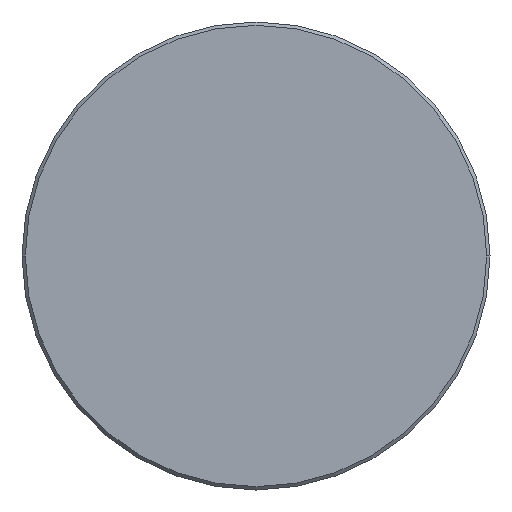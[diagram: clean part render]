
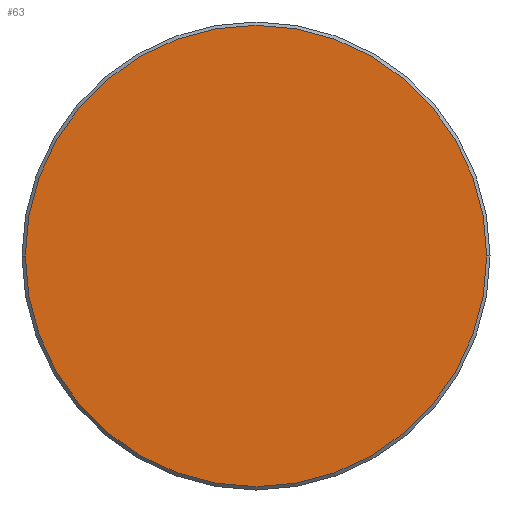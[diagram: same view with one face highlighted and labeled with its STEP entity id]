
A CAD part, left-side view. The second image highlights one B-rep face of the part: STEP entity #63.
In plain terms, the highlighted planar face has unit normal (-1, 0, 0).
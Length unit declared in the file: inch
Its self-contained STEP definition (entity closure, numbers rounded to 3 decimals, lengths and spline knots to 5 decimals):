
#13 = VERTEX_POINT ( 'NONE', #131 ) ;
#33 = DIRECTION ( 'NONE',  ( 0., -1., 0. ) ) ;
#36 = AXIS2_PLACEMENT_3D ( 'NONE', #264, #113, #33 ) ;
#51 = DIRECTION ( 'NONE',  ( -1., 0., 0. ) ) ;
#63 = ADVANCED_FACE ( 'NONE', ( #220 ), #219, .T. ) ;
#83 = AXIS2_PLACEMENT_3D ( 'NONE', #339, #51, #249 ) ;
#87 = AXIS2_PLACEMENT_3D ( 'NONE', #271, #294, #267 ) ;
#89 = VERTEX_POINT ( 'NONE', #106 ) ;
#106 = CARTESIAN_POINT ( 'NONE',  ( 0., -0.27725, 0. ) ) ;
#111 = EDGE_LOOP ( 'NONE', ( #213, #118 ) ) ;
#112 = CIRCLE ( 'NONE', #36, 0.27725 ) ;
#113 = DIRECTION ( 'NONE',  ( -1., 0., 0. ) ) ;
#118 = ORIENTED_EDGE ( 'NONE', *, *, #349, .T. ) ;
#131 = CARTESIAN_POINT ( 'NONE',  ( 0., 0.27725, 0. ) ) ;
#160 = CIRCLE ( 'NONE', #87, 0.27725 ) ;
#213 = ORIENTED_EDGE ( 'NONE', *, *, #269, .T. ) ;
#219 = PLANE ( 'NONE',  #83 ) ;
#220 = FACE_OUTER_BOUND ( 'NONE', #111, .T. ) ;
#249 = DIRECTION ( 'NONE',  ( 0., -1., 0. ) ) ;
#264 = CARTESIAN_POINT ( 'NONE',  ( 0., 0., 0. ) ) ;
#267 = DIRECTION ( 'NONE',  ( 0., -1., 0. ) ) ;
#269 = EDGE_CURVE ( 'NONE', #13, #89, #112, .T. ) ;
#271 = CARTESIAN_POINT ( 'NONE',  ( 0., 0., 0. ) ) ;
#294 = DIRECTION ( 'NONE',  ( -1., 0., 0. ) ) ;
#339 = CARTESIAN_POINT ( 'NONE',  ( 0., 0., 0. ) ) ;
#349 = EDGE_CURVE ( 'NONE', #89, #13, #160, .T. ) ;
